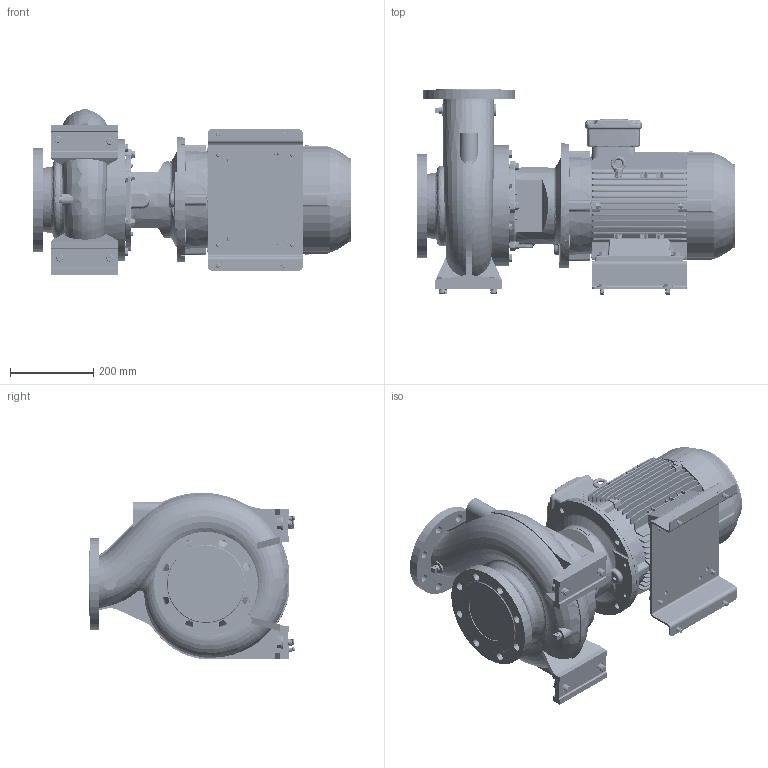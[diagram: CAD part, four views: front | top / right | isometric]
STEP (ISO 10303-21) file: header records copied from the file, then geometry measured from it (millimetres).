
FILE_DESCRIPTION (( 'STEP AP214' ), '1' );
FILE_NAME ('GSD4 100-200_7.5_(132M)_W21.STEP', '2026-07-01T05:38:22', ( '' ), ( '' ), 'SwSTEP 2.0', 'SolidWorks 2024', '' );
FILE_SCHEMA (( 'AUTOMOTIVE_DESIGN' ));
Length unit declared in the file: millimetre
Products named in the file (9): 132M ALIE3_W21T_B35; 100-200-132M_ﾃﾞﾌｫﾙﾄ; Parametric Flat Washer_M16; 140_178 x 68 BP - 271472191; GSD4 100-200_7.5_(132M)_W21; Parametric Flat Washer_M10; Parametric bolt_SFT-A351B; Parametric bolt_SFT-A249B; Parametric bolt_SFT-A253B
Assembly tree (27 placements, depth 2):
  GSD4 100-200_7.5_(132M)_W21
    100-200-132M_ﾃﾞﾌｫﾙﾄ
    140_178 x 68 BP - 271472191
    Parametric bolt_SFT-A249B  x4
    Parametric bolt_SFT-A253B  x4
    Parametric bolt_SFT-A351B  x4
    Parametric Flat Washer_M16  x4
    Parametric Flat Washer_M10  x8
    132M ALIE3_W21T_B35
Bounding box: 764.8 x 493 x 399.79 mm (x, y, z)
Volume: 40648614.9 mm3; surface area: 2377543.1 mm2
Topology: 31 solids, 31 shells, 5121 faces, 13328 edges, 8600 vertices
Faces by surface type: plane 2929, cylinder 1288, bspline 317, torus 307, cone 248, sphere 32
Entity records: 195980 total; most frequent: CARTESIAN_POINT 84928, ORIENTED_EDGE 24082, DIRECTION 21404, EDGE_CURVE 12041, LINE 7840, VECTOR 7840, VERTEX_POINT 7781, AXIS2_PLACEMENT_3D 6782
